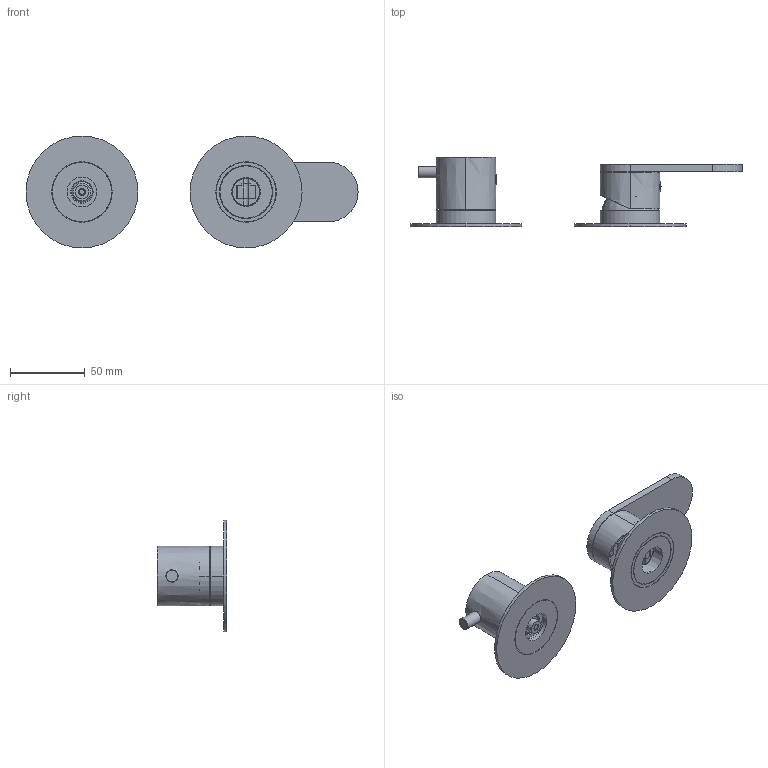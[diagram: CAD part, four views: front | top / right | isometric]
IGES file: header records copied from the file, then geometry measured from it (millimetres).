
Start section:  PTC IGES file: 79553V2.igs
Global section: file name: 79553V2.igs; native system: Creo Parametric by PTC Inc.; preprocessor: 2025443; author: carloff; organization: Unknown; date: 20261007.163709; units: millimetre
Bounding box: 222.5 x 46.8 x 75 mm (x, y, z)
Surface area: 57218.6 mm2 (no closed solid volume)
Topology: 0 solids, 0 shells, 633 faces, 3432 edges, 3422 vertices
Faces by surface type: revolution 382, bspline 251
